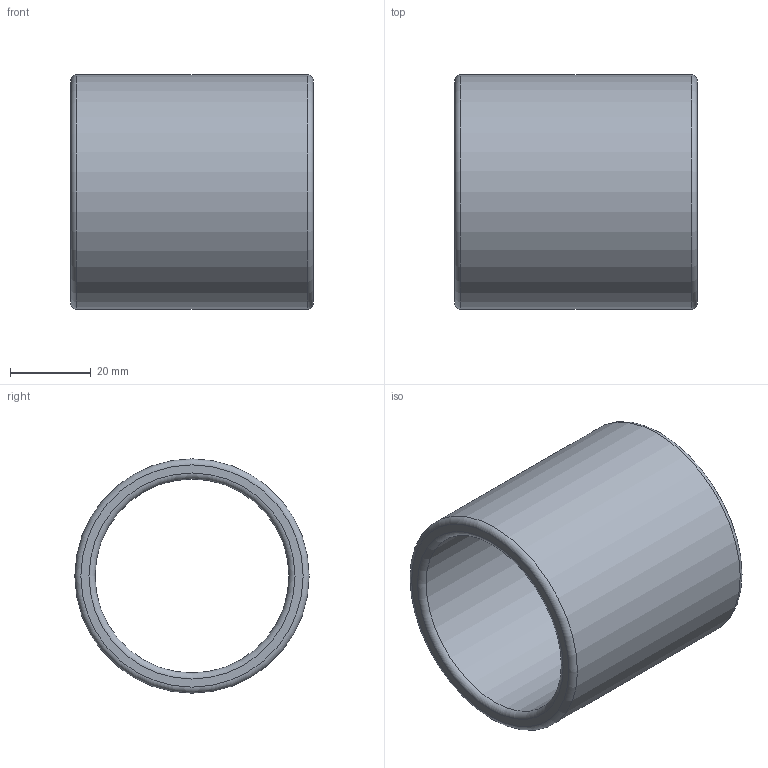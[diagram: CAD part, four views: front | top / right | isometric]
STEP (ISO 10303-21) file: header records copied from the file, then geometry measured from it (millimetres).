
FILE_DESCRIPTION(/* description */ ('Impex Ready, www.impex-ready.pl'),/* implementation_level */ '2;1');
FILE_NAME(/* name */ 'C:\Users\VIKKY\Nextcloud\SM\projekt 10 - części na stronę internetową\Pliki_3D_new\282 Tuleje BLAG\282_BLAG_STEP\BLAG4060.ipt.step',/* time_stamp */ '2021-12-07T14:20:35+03:00',/* author */ ('SM'),/* organization */ (''),/* preprocessor_version */ 'ST-DEVELOPER v18.1',/* originating_system */ 'Autodesk Inventor 2021',/* authorisation */ '');
FILE_SCHEMA (('AUTOMOTIVE_DESIGN { 1 0 10303 214 3 1 1 }'));
Length unit declared in the file: millimetre
Products named in the file (1): BLAG4060
Bounding box: 60 x 58 x 58 mm (x, y, z)
Volume: 49629.7 mm3; surface area: 21216.8 mm2
Topology: 1 solids, 1 shells, 8 faces, 18 edges, 12 vertices
Faces by surface type: torus 4, plane 2, cylinder 2
Full cylindrical faces by diameter (mm): 48 x1, 58 x1
Entity records: 309 total; most frequent: DIRECTION 52, CARTESIAN_POINT 39, ORIENTED_EDGE 36, AXIS2_PLACEMENT_3D 25, EDGE_CURVE 18, CIRCLE 16, VERTEX_POINT 12, EDGE_LOOP 10
